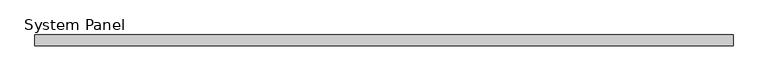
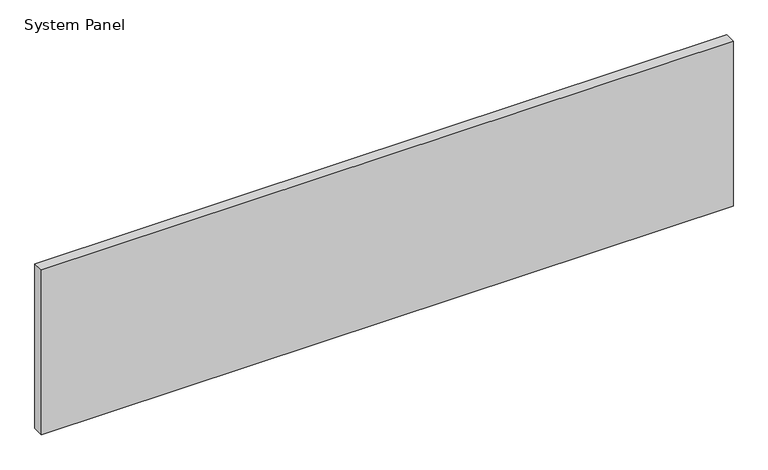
"""IFC4 building model written with IfcOpenShell, lengths in millimetres: plate geometry, System Panel : Glazed - ACMP (AL-1)."""

import ifcopenshell
import ifcopenshell.guid

model = None  # the IFC model being written
_history = None  # IfcOwnerHistory: only IFC2X3 demands one
_inside = {}  # id of a spatial element -> (the spatial element, [elements in it])
_under = {}  # id of a project, library or spatial element -> (it, [spatial elements below it])
_declared = {}  # id of a project -> (the project, [libraries it declares])
_typed = {}  # id of a type object -> (the type object, [elements of that type])
_made_of = {}  # id of a material, layer set ... -> (it, [elements and type objects made of it])


def new_model(schema):
    """Start an empty IFC model of exactly this schema.

    Asked for "IFC4X3", IfcOpenShell would pick the latest addendum, in which some entities
    have other attributes; the version numbers below select the first issue.
    IFC2X3 requires an IfcOwnerHistory on every rooted entity: one is made here for all.
    """
    global model, _history
    if schema == "IFC4X3":
        model = ifcopenshell.file(schema_version=(4, 3, 0, 0))
    else:
        model = ifcopenshell.file(schema=schema)
    _inside.clear()
    _under.clear()
    _declared.clear()
    _typed.clear()
    _made_of.clear()
    _history = None
    if model.schema == "IFC2X3":
        org = make("IfcOrganization", Name="unknown")
        user = make(
            "IfcPersonAndOrganization",
            ThePerson=make("IfcPerson", FamilyName="unknown"),
            TheOrganization=org,
        )
        app = make(
            "IfcApplication",
            ApplicationDeveloper=org,
            Version="unknown",
            ApplicationFullName="unknown",
            ApplicationIdentifier="unknown",
        )
        _history = make(
            "IfcOwnerHistory",
            OwningUser=user,
            OwningApplication=app,
            ChangeAction="ADDED",
            CreationDate=0,
        )
    return model


def make(cls, **values):
    """One entity of the class cls with the attributes given. An attribute that is None is left unset."""
    return model.create_entity(
        cls, **{name: value for name, value in values.items() if value is not None}
    )


def rooted(cls, **values):
    """An entity with a GlobalId (a new one), such as an element, a storey or a relation."""
    return make(cls, GlobalId=ifcopenshell.guid.new(), OwnerHistory=_history, **values)


def si_unit(unit_type, name, prefix=None):
    """IfcSIUnit, for example si_unit("LENGTHUNIT", "METRE", prefix="MILLI")."""
    return make("IfcSIUnit", UnitType=unit_type, Prefix=prefix, Name=name)


def assignment(units):
    """IfcUnitAssignment: the units of a project."""
    return None if units is None else make("IfcUnitAssignment", Units=units)


def point(xyz):
    """IfcCartesianPoint."""
    return None if xyz is None else make("IfcCartesianPoint", Coordinates=xyz)


def direction(xyz):
    """IfcDirection."""
    return None if xyz is None else make("IfcDirection", DirectionRatios=xyz)


def frame(location, z_axis=None, x_axis=None):
    """IfcAxis2Placement3D, a coordinate frame: its origin and axes. An axis left out is left unset."""
    return make(
        "IfcAxis2Placement3D",
        Location=point(location),
        Axis=direction(z_axis),
        RefDirection=direction(x_axis),
    )


def origin():
    """The frame at (0, 0, 0) with its axes left unset."""
    return frame((0.0, 0.0, 0.0))


def origin_with_axes():
    """The frame at (0, 0, 0) with the z axis (0, 0, 1) and the x axis (1, 0, 0) written out."""
    return frame((0.0, 0.0, 0.0), z_axis=(0.0, 0.0, 1.0), x_axis=(1.0, 0.0, 0.0))


def place(relative_to, where):
    """IfcLocalPlacement: puts the frame where relative to a parent placement (None: the world)."""
    return make(
        "IfcLocalPlacement", PlacementRelTo=relative_to, RelativePlacement=where
    )


def context(
    kind, dimensions, precision=None, world=None, true_north=None, identifier=None
):
    """IfcGeometricRepresentationContext, for example the 3D "Model" context."""
    return make(
        "IfcGeometricRepresentationContext",
        ContextIdentifier=identifier,
        ContextType=kind,
        CoordinateSpaceDimension=dimensions,
        Precision=precision,
        WorldCoordinateSystem=world,
        TrueNorth=true_north,
    )


def project(units=None, contexts=None):
    """IfcProject with its units and contexts."""
    return rooted(
        "IfcProject",
        Name="project",
        RepresentationContexts=contexts,
        UnitsInContext=assignment(units),
    )


def spatial(cls, under=None, at=None, **own):
    """A site, building, storey or space (cls), placed at a placement, below another one or the project."""
    s = rooted(cls, ObjectPlacement=at, **own)
    if under is not None:
        _under.setdefault(under.id(), (under, []))[1].append(s)
    return s


def polyline(points):
    """IfcPolyline through the points."""
    return make("IfcPolyline", Points=[point(p) for p in points])


def outline(outer, holes=None, kind="AREA"):
    """IfcArbitraryClosedProfileDef: a profile drawn as a closed curve; with holes, ...WithVoids."""
    if holes is None:
        return make("IfcArbitraryClosedProfileDef", ProfileType=kind, OuterCurve=outer)
    return make(
        "IfcArbitraryProfileDefWithVoids",
        ProfileType=kind,
        OuterCurve=outer,
        InnerCurves=holes,
    )


def extrude(swept, where, along, depth):
    """IfcExtrudedAreaSolid: the profile swept, set in the frame where, extruded along a direction by depth."""
    return make(
        "IfcExtrudedAreaSolid",
        SweptArea=swept,
        Position=where,
        ExtrudedDirection=direction(along),
        Depth=depth,
    )


def shape(context_of_items, identifier, shape_type, items):
    """IfcShapeRepresentation: the items that make up one representation, for example the "Body"."""
    return make(
        "IfcShapeRepresentation",
        ContextOfItems=context_of_items,
        RepresentationIdentifier=identifier,
        RepresentationType=shape_type,
        Items=items,
    )


def source(mapping_origin, context_of_items, identifier, shape_type, items):
    """IfcRepresentationMap: a shape defined once, which mapped items show again and again."""
    return make(
        "IfcRepresentationMap",
        MappingOrigin=mapping_origin,
        MappedRepresentation=shape(context_of_items, identifier, shape_type, items),
    )


def transform(
    local_origin,
    x_axis=None,
    y_axis=None,
    z_axis=None,
    scale=None,
    scale2=None,
    scale3=None,
    uniform=True,
):
    """IfcCartesianTransformationOperator3D, or its non-uniform kind. x_axis, y_axis, z_axis: its Axis1, 2, 3."""
    if uniform:
        return make(
            "IfcCartesianTransformationOperator3D",
            Axis1=direction(x_axis),
            Axis2=direction(y_axis),
            LocalOrigin=point(local_origin),
            Scale=scale,
            Axis3=direction(z_axis),
        )
    return make(
        "IfcCartesianTransformationOperator3DnonUniform",
        Axis1=direction(x_axis),
        Axis2=direction(y_axis),
        LocalOrigin=point(local_origin),
        Scale=scale,
        Axis3=direction(z_axis),
        Scale2=scale2,
        Scale3=scale3,
    )


def mapped(mapping_source, mapping_target):
    """IfcMappedItem: shows the shape of a source again, moved by a transform."""
    return make(
        "IfcMappedItem", MappingSource=mapping_source, MappingTarget=mapping_target
    )


def made_of(thing, what):
    """Note that an element or type object is made of a material, layer set ...; save() writes the relation."""
    if what is not None:
        _made_of.setdefault(what.id(), (what, []))[1].append(thing)
    return thing


def element(
    cls,
    number,
    at=None,
    inside=None,
    cuts=None,
    type_object=None,
    material=None,
    context=None,
    identifier="Body",
    shape_type=None,
    held_by="IfcProductDefinitionShape",
    body=None,
    shapes=None,
    **own,
):
    """One element of the class cls, such as IfcWall. Its Tag is "e" and its number.

    at: its placement. inside: the storey or other place that contains it. cuts: it is an
    opening in that element (IfcRelVoidsElement). A single representation is given by context,
    identifier, shape_type and body (its items); several are given by shapes. held_by: the class
    of the entity that holds the representations. save() writes the other relations.
    """
    e = rooted(cls, Tag="e%d" % number, ObjectPlacement=at, **own)
    if body is not None:
        shapes = [shape(context, identifier, shape_type, body)]
    if shapes is not None:
        e.Representation = make(held_by, Representations=shapes)
    if inside is not None:
        _inside.setdefault(inside.id(), (inside, []))[1].append(e)
    if cuts is not None:
        rooted(
            "IfcRelVoidsElement", RelatingBuildingElement=cuts, RelatedOpeningElement=e
        )
    if type_object is not None:
        _typed.setdefault(type_object.id(), (type_object, []))[1].append(e)
    return made_of(e, material)


def aggregate(whole, parts):
    """IfcRelAggregates: a whole, such as a stair, and the parts it consists of."""
    return rooted("IfcRelAggregates", RelatingObject=whole, RelatedObjects=parts)


def save(model, path):
    """Write the relations noted so far, then the file.

    IfcRelAggregates (storeys below a building ...), IfcRelContainedInSpatialStructure (elements
    in a storey), IfcRelDefinesByType, IfcRelAssociatesMaterial and IfcRelDeclares: one each for
    every whole, place, type object, material and project.
    """
    for whole, parts in _under.values():
        aggregate(whole, parts)
    for where, things in _inside.values():
        rooted(
            "IfcRelContainedInSpatialStructure",
            RelatedElements=things,
            RelatingStructure=where,
        )
    for kind, things in _typed.values():
        rooted("IfcRelDefinesByType", RelatedObjects=things, RelatingType=kind)
    for what, things in _made_of.values():
        rooted("IfcRelAssociatesMaterial", RelatedObjects=things, RelatingMaterial=what)
    for by, libraries in _declared.values():
        rooted("IfcRelDeclares", RelatingContext=by, RelatedDefinitions=libraries)
    model.write(path)


def system_panel_7ec84625(model_context):
    return source(origin(), model_context, "Body", "SweptSolid", [
        extrude(outline(polyline([(806.45, -25.4), (-806.45, -25.4), (-806.45, 0.0), (806.45, 0.0), (806.45, -25.4)])), origin_with_axes(), (0.0, 0.0, 1.0), 406.3999976),
    ])


if __name__ == "__main__":
    model = new_model("IFC4")
    model_context = context("Model", 3, world=origin())
    ifc_project = project(units=[si_unit("LENGTHUNIT", "METRE", prefix="MILLI")], contexts=[model_context])
    site = spatial("IfcSite", under=ifc_project)
    building = spatial("IfcBuilding", under=site)
    placement = place(None, origin())
    system_panel_shape = system_panel_7ec84625(model_context)
    element("IfcPlate", 1, ObjectType="System Panel : Glazed - ACMP (AL-1)", at=placement, inside=building, context=model_context, shape_type="MappedRepresentation", body=[
        mapped(system_panel_shape, transform((0.0, 0.0, 0.0), x_axis=(1.0, 0.0, 0.0), y_axis=(0.0, 1.0, 0.0), z_axis=(0.0, 0.0, 1.0))),
    ])
    save(model, "model.ifc")
